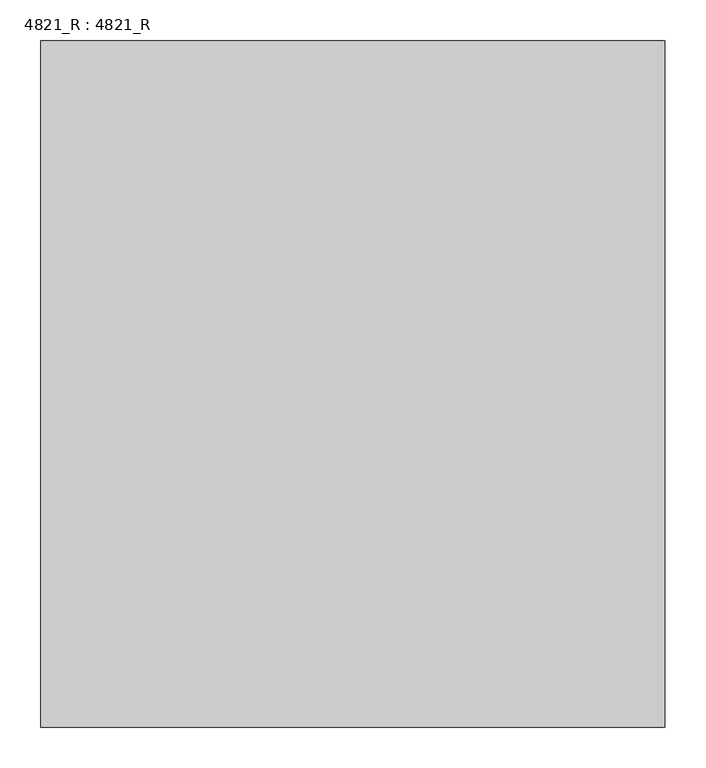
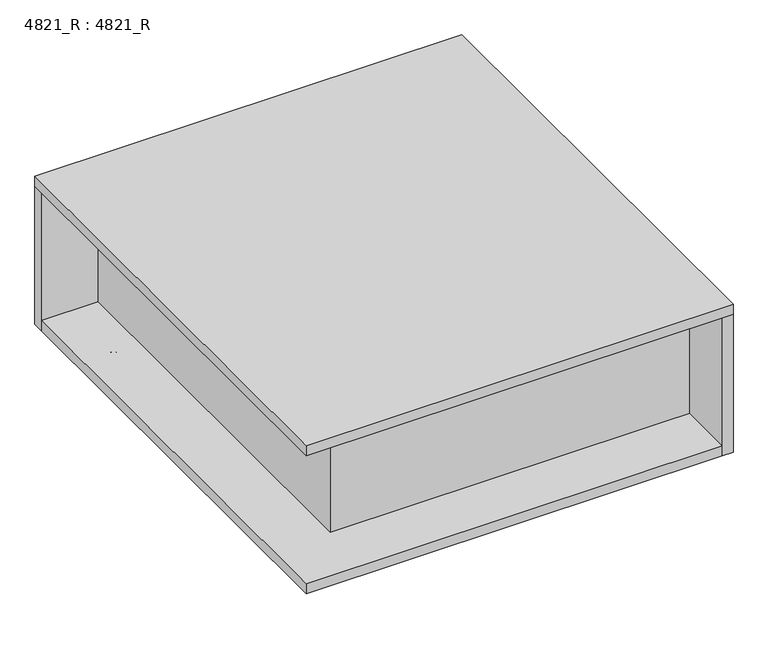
"""IFC4 building model written with IfcOpenShell, lengths in millimetres: furniture geometry, 4821_R : 4821_R."""

import ifcopenshell
import ifcopenshell.guid

model = None  # the IFC model being written
_history = None  # IfcOwnerHistory: only IFC2X3 demands one
_inside = {}  # id of a spatial element -> (the spatial element, [elements in it])
_under = {}  # id of a project, library or spatial element -> (it, [spatial elements below it])
_declared = {}  # id of a project -> (the project, [libraries it declares])
_typed = {}  # id of a type object -> (the type object, [elements of that type])
_made_of = {}  # id of a material, layer set ... -> (it, [elements and type objects made of it])


def new_model(schema):
    """Start an empty IFC model of exactly this schema.

    Asked for "IFC4X3", IfcOpenShell would pick the latest addendum, in which some entities
    have other attributes; the version numbers below select the first issue.
    IFC2X3 requires an IfcOwnerHistory on every rooted entity: one is made here for all.
    """
    global model, _history
    if schema == "IFC4X3":
        model = ifcopenshell.file(schema_version=(4, 3, 0, 0))
    else:
        model = ifcopenshell.file(schema=schema)
    _inside.clear()
    _under.clear()
    _declared.clear()
    _typed.clear()
    _made_of.clear()
    _history = None
    if model.schema == "IFC2X3":
        org = make("IfcOrganization", Name="unknown")
        user = make(
            "IfcPersonAndOrganization",
            ThePerson=make("IfcPerson", FamilyName="unknown"),
            TheOrganization=org,
        )
        app = make(
            "IfcApplication",
            ApplicationDeveloper=org,
            Version="unknown",
            ApplicationFullName="unknown",
            ApplicationIdentifier="unknown",
        )
        _history = make(
            "IfcOwnerHistory",
            OwningUser=user,
            OwningApplication=app,
            ChangeAction="ADDED",
            CreationDate=0,
        )
    return model


def make(cls, **values):
    """One entity of the class cls with the attributes given. An attribute that is None is left unset."""
    return model.create_entity(
        cls, **{name: value for name, value in values.items() if value is not None}
    )


def rooted(cls, **values):
    """An entity with a GlobalId (a new one), such as an element, a storey or a relation."""
    return make(cls, GlobalId=ifcopenshell.guid.new(), OwnerHistory=_history, **values)


def si_unit(unit_type, name, prefix=None):
    """IfcSIUnit, for example si_unit("LENGTHUNIT", "METRE", prefix="MILLI")."""
    return make("IfcSIUnit", UnitType=unit_type, Prefix=prefix, Name=name)


def assignment(units):
    """IfcUnitAssignment: the units of a project."""
    return None if units is None else make("IfcUnitAssignment", Units=units)


def point(xyz):
    """IfcCartesianPoint."""
    return None if xyz is None else make("IfcCartesianPoint", Coordinates=xyz)


def direction(xyz):
    """IfcDirection."""
    return None if xyz is None else make("IfcDirection", DirectionRatios=xyz)


def frame(location, z_axis=None, x_axis=None):
    """IfcAxis2Placement3D, a coordinate frame: its origin and axes. An axis left out is left unset."""
    return make(
        "IfcAxis2Placement3D",
        Location=point(location),
        Axis=direction(z_axis),
        RefDirection=direction(x_axis),
    )


def frame_2d(location, x_axis=None):
    """IfcAxis2Placement2D, a coordinate frame in the plane: its origin and x axis."""
    return make(
        "IfcAxis2Placement2D", Location=point(location), RefDirection=direction(x_axis)
    )


def origin():
    """The frame at (0, 0, 0) with its axes left unset."""
    return frame((0.0, 0.0, 0.0))


def place(relative_to, where):
    """IfcLocalPlacement: puts the frame where relative to a parent placement (None: the world)."""
    return make(
        "IfcLocalPlacement", PlacementRelTo=relative_to, RelativePlacement=where
    )


def context(
    kind, dimensions, precision=None, world=None, true_north=None, identifier=None
):
    """IfcGeometricRepresentationContext, for example the 3D "Model" context."""
    return make(
        "IfcGeometricRepresentationContext",
        ContextIdentifier=identifier,
        ContextType=kind,
        CoordinateSpaceDimension=dimensions,
        Precision=precision,
        WorldCoordinateSystem=world,
        TrueNorth=true_north,
    )


def project(units=None, contexts=None):
    """IfcProject with its units and contexts."""
    return rooted(
        "IfcProject",
        Name="project",
        RepresentationContexts=contexts,
        UnitsInContext=assignment(units),
    )


def spatial(cls, under=None, at=None, **own):
    """A site, building, storey or space (cls), placed at a placement, below another one or the project."""
    s = rooted(cls, ObjectPlacement=at, **own)
    if under is not None:
        _under.setdefault(under.id(), (under, []))[1].append(s)
    return s


def polyline(points):
    """IfcPolyline through the points."""
    return make("IfcPolyline", Points=[point(p) for p in points])


def circle_curve(where, radius):
    """IfcCircle in the frame where."""
    return make("IfcCircle", Position=where, Radius=radius)


def ellipse_curve(where, semi_axis1, semi_axis2):
    """IfcEllipse in the frame where."""
    return make(
        "IfcEllipse", Position=where, SemiAxis1=semi_axis1, SemiAxis2=semi_axis2
    )


def trimmed(basis, trim1, trim2, sense, master):
    """IfcTrimmedCurve: the piece of a basis curve between two trims."""
    return make(
        "IfcTrimmedCurve",
        BasisCurve=basis,
        Trim1=trim1,
        Trim2=trim2,
        SenseAgreement=sense,
        MasterRepresentation=master,
    )


def segment(curve, same_sense, transition):
    """IfcCompositeCurveSegment."""
    return make(
        "IfcCompositeCurveSegment",
        Transition=transition,
        SameSense=same_sense,
        ParentCurve=curve,
    )


def composite_curve(segments, self_intersect=None):
    """IfcCompositeCurve: segments joined end to end."""
    return make("IfcCompositeCurve", Segments=segments, SelfIntersect=self_intersect)


def outline(outer, holes=None, kind="AREA"):
    """IfcArbitraryClosedProfileDef: a profile drawn as a closed curve; with holes, ...WithVoids."""
    if holes is None:
        return make("IfcArbitraryClosedProfileDef", ProfileType=kind, OuterCurve=outer)
    return make(
        "IfcArbitraryProfileDefWithVoids",
        ProfileType=kind,
        OuterCurve=outer,
        InnerCurves=holes,
    )


def extrude(swept, where, along, depth):
    """IfcExtrudedAreaSolid: the profile swept, set in the frame where, extruded along a direction by depth."""
    return make(
        "IfcExtrudedAreaSolid",
        SweptArea=swept,
        Position=where,
        ExtrudedDirection=direction(along),
        Depth=depth,
    )


def shape(context_of_items, identifier, shape_type, items):
    """IfcShapeRepresentation: the items that make up one representation, for example the "Body"."""
    return make(
        "IfcShapeRepresentation",
        ContextOfItems=context_of_items,
        RepresentationIdentifier=identifier,
        RepresentationType=shape_type,
        Items=items,
    )


def source(mapping_origin, context_of_items, identifier, shape_type, items):
    """IfcRepresentationMap: a shape defined once, which mapped items show again and again."""
    return make(
        "IfcRepresentationMap",
        MappingOrigin=mapping_origin,
        MappedRepresentation=shape(context_of_items, identifier, shape_type, items),
    )


def transform(
    local_origin,
    x_axis=None,
    y_axis=None,
    z_axis=None,
    scale=None,
    scale2=None,
    scale3=None,
    uniform=True,
):
    """IfcCartesianTransformationOperator3D, or its non-uniform kind. x_axis, y_axis, z_axis: its Axis1, 2, 3."""
    if uniform:
        return make(
            "IfcCartesianTransformationOperator3D",
            Axis1=direction(x_axis),
            Axis2=direction(y_axis),
            LocalOrigin=point(local_origin),
            Scale=scale,
            Axis3=direction(z_axis),
        )
    return make(
        "IfcCartesianTransformationOperator3DnonUniform",
        Axis1=direction(x_axis),
        Axis2=direction(y_axis),
        LocalOrigin=point(local_origin),
        Scale=scale,
        Axis3=direction(z_axis),
        Scale2=scale2,
        Scale3=scale3,
    )


def mapped(mapping_source, mapping_target):
    """IfcMappedItem: shows the shape of a source again, moved by a transform."""
    return make(
        "IfcMappedItem", MappingSource=mapping_source, MappingTarget=mapping_target
    )


def made_of(thing, what):
    """Note that an element or type object is made of a material, layer set ...; save() writes the relation."""
    if what is not None:
        _made_of.setdefault(what.id(), (what, []))[1].append(thing)
    return thing


def element(
    cls,
    number,
    at=None,
    inside=None,
    cuts=None,
    type_object=None,
    material=None,
    context=None,
    identifier="Body",
    shape_type=None,
    held_by="IfcProductDefinitionShape",
    body=None,
    shapes=None,
    **own,
):
    """One element of the class cls, such as IfcWall. Its Tag is "e" and its number.

    at: its placement. inside: the storey or other place that contains it. cuts: it is an
    opening in that element (IfcRelVoidsElement). A single representation is given by context,
    identifier, shape_type and body (its items); several are given by shapes. held_by: the class
    of the entity that holds the representations. save() writes the other relations.
    """
    e = rooted(cls, Tag="e%d" % number, ObjectPlacement=at, **own)
    if body is not None:
        shapes = [shape(context, identifier, shape_type, body)]
    if shapes is not None:
        e.Representation = make(held_by, Representations=shapes)
    if inside is not None:
        _inside.setdefault(inside.id(), (inside, []))[1].append(e)
    if cuts is not None:
        rooted(
            "IfcRelVoidsElement", RelatingBuildingElement=cuts, RelatedOpeningElement=e
        )
    if type_object is not None:
        _typed.setdefault(type_object.id(), (type_object, []))[1].append(e)
    return made_of(e, material)


def aggregate(whole, parts):
    """IfcRelAggregates: a whole, such as a stair, and the parts it consists of."""
    return rooted("IfcRelAggregates", RelatingObject=whole, RelatedObjects=parts)


def save(model, path):
    """Write the relations noted so far, then the file.

    IfcRelAggregates (storeys below a building ...), IfcRelContainedInSpatialStructure (elements
    in a storey), IfcRelDefinesByType, IfcRelAssociatesMaterial and IfcRelDeclares: one each for
    every whole, place, type object, material and project.
    """
    for whole, parts in _under.values():
        aggregate(whole, parts)
    for where, things in _inside.values():
        rooted(
            "IfcRelContainedInSpatialStructure",
            RelatedElements=things,
            RelatingStructure=where,
        )
    for kind, things in _typed.values():
        rooted("IfcRelDefinesByType", RelatedObjects=things, RelatingType=kind)
    for what, things in _made_of.values():
        rooted("IfcRelAssociatesMaterial", RelatedObjects=things, RelatingMaterial=what)
    for by, libraries in _declared.values():
        rooted("IfcRelDeclares", RelatingContext=by, RelatedDefinitions=libraries)
    model.write(path)


def plane_surface(at):
    """IfcPlane: the flat surface through the origin of the frame at, square to its z axis."""
    return make("IfcPlane", Position=at)


def cylinder_surface(at, radius):
    """IfcCylindricalSurface: all points at the distance radius from the z axis of the frame at."""
    return make("IfcCylindricalSurface", Position=at, Radius=radius)


def revolved_surface(curve, axis_point, axis_direction):
    """IfcSurfaceOfRevolution: the curve turned about the line through axis_point along axis_direction."""
    return make(
        "IfcSurfaceOfRevolution",
        SweptCurve=make("IfcArbitraryOpenProfileDef", ProfileType="CURVE", Curve=curve),
        AxisPosition=make("IfcAxis1Placement", Location=point(axis_point), Axis=direction(axis_direction)),
    )


def advanced_brep(points, edges, surfaces, faces):
    """IfcAdvancedBrep: a solid bounded by faces that lie on surfaces and meet in shared edges.

    An edge is (start, end): straight between two places in points (the first is 0);
    or (start, end, curve); or (start, end, curve, False) where it runs against its curve.
    A face is (place in surfaces, loops), or (place, loops, False) where it looks against
    its surface's normal. A loop lists edges by number (the first is 1), with a minus sign
    where the edge is run from its end to its start. The first loop is the outer one.
    """
    corners = [point(p) for p in points]
    vertices = [make("IfcVertexPoint", VertexGeometry=c) for c in corners]
    made = []
    for start, end, *more in edges:
        made.append(
            make(
                "IfcEdgeCurve",
                EdgeStart=vertices[start],
                EdgeEnd=vertices[end],
                EdgeGeometry=more[0] if more else make("IfcPolyline", Points=[corners[start], corners[end]]),
                SameSense=more[1] if len(more) > 1 else True,
            )
        )
    hull = []
    for where, loops, *sense in faces:
        bounds = []
        for j, loop in enumerate(loops):
            ring = [make("IfcOrientedEdge", EdgeElement=made[abs(k) - 1], Orientation=k > 0) for k in loop]
            bounds.append(
                make(
                    "IfcFaceOuterBound" if j == 0 else "IfcFaceBound",
                    Bound=make("IfcEdgeLoop", EdgeList=ring),
                    Orientation=True,
                )
            )
        hull.append(make("IfcAdvancedFace", Bounds=bounds, FaceSurface=surfaces[where], SameSense=sense[0] if sense else True))
    return make("IfcAdvancedBrep", Outer=make("IfcClosedShell", CfsFaces=hull))


def furniture_4821_r_4821_r_f8ec19d6(model_context):
    return source(origin(), model_context, "Body", "SolidModel", [
        advanced_brep(
        [(-625.475, -38.1, 41.5925), (-720.725, -38.1, 41.5925), (-723.9, -41.275, 41.5925), (-723.9, -136.525, 41.5925), (-720.725, -139.7, 41.5925), (-625.475, -139.7, 41.5925), (-622.3, -136.525, 41.5925), (-622.3, -41.275, 41.5925), (-722.63, -41.275, 11.1125), (-720.725, -39.37, 11.1125), (-625.475, -39.37, 11.1125), (-623.57, -41.275, 11.1125), (-623.57, -136.525, 11.1125), (-625.475, -138.43, 11.1125), (-720.725, -138.43, 11.1125), (-722.63, -136.525, 11.1125), (-625.475, -38.1, 11.1125), (-720.725, -38.1, 11.1125), (-723.9, -41.275, 11.1125), (-723.9, -136.525, 11.1125), (-720.725, -139.7, 11.1125), (-625.475, -139.7, 11.1125), (-622.3, -136.525, 11.1125), (-622.3, -41.275, 11.1125), (-720.725, -39.37, 9.8425), (-722.63, -41.275, 9.8425), (-625.475, -39.37, 9.8425), (-623.57, -41.275, 9.8425), (-623.57, -136.525, 9.8425), (-625.475, -138.43, 9.8425), (-720.725, -138.43, 9.8425), (-722.63, -136.525, 9.8425)],
        [
            (0, 1),
            (1, 2, circle_curve(frame((-720.725, -41.275, 41.5925), z_axis=(0.0, 0.0, 1.0), x_axis=(1.0, 0.0, 0.0)), 3.175)),
            (2, 3),
            (3, 4, circle_curve(frame((-720.725, -136.525, 41.5925), z_axis=(0.0, 0.0, 1.0), x_axis=(1.0, 0.0, 0.0)), 3.175)),
            (4, 5),
            (5, 6, circle_curve(frame((-625.475, -136.525, 41.5925), z_axis=(0.0, 0.0, 1.0), x_axis=(1.0, 0.0, 0.0)), 3.175)),
            (6, 7),
            (7, 0, circle_curve(frame((-625.475, -41.275, 41.5925), z_axis=(0.0, 0.0, 1.0), x_axis=(1.0, 0.0, 0.0)), 3.175)),
            (8, 9, circle_curve(frame((-720.725, -41.275, 11.1125), z_axis=(0.0, 0.0, -1.0), x_axis=(-1.0, 0.0, 0.0)), 1.905)),
            (9, 10),
            (10, 11, circle_curve(frame((-625.475, -41.275, 11.1125), z_axis=(0.0, 0.0, -1.0), x_axis=(0.0, 1.0, 0.0)), 1.905)),
            (11, 12),
            (12, 13, circle_curve(frame((-625.475, -136.525, 11.1125), z_axis=(0.0, 0.0, -1.0), x_axis=(1.0, 0.0, 0.0)), 1.905)),
            (13, 14),
            (14, 15, circle_curve(frame((-720.725, -136.525, 11.1125), z_axis=(0.0, 0.0, -1.0), x_axis=(0.0, -1.0, 0.0)), 1.905)),
            (15, 8),
            (0, 16),
            (16, 17),
            (17, 1),
            (17, 18, circle_curve(frame((-720.725, -41.275, 11.1125), z_axis=(0.0, 0.0, 1.0), x_axis=(1.0, 0.0, 0.0)), 3.175)),
            (18, 2),
            (18, 19),
            (19, 3),
            (19, 20, circle_curve(frame((-720.725, -136.525, 11.1125), z_axis=(0.0, 0.0, 1.0), x_axis=(1.0, 0.0, 0.0)), 3.175)),
            (20, 4),
            (20, 21),
            (21, 5),
            (21, 22, circle_curve(frame((-625.475, -136.525, 11.1125), z_axis=(0.0, 0.0, 1.0), x_axis=(1.0, 0.0, 0.0)), 3.175)),
            (22, 6),
            (22, 23),
            (23, 7),
            (23, 16, circle_curve(frame((-625.475, -41.275, 11.1125), z_axis=(0.0, 0.0, 1.0), x_axis=(1.0, 0.0, 0.0)), 3.175)),
            (24, 25, circle_curve(frame((-720.725, -41.275, 9.8425), z_axis=(0.0, 0.0, 1.0), x_axis=(-1.0, 0.0, 0.0)), 1.905)),
            (25, 18, circle_curve(frame((-722.63, -41.275, 11.1125), z_axis=(0.0, 1.0, 0.0), x_axis=(1.0, 0.0, 0.0)), 1.27)),
            (17, 24, circle_curve(frame((-720.725, -39.37, 11.1125), z_axis=(-1.0, 0.0, 0.0), x_axis=(0.0, -1.0, 0.0)), 1.27)),
            (16, 26, circle_curve(frame((-625.475, -39.37, 11.1125), z_axis=(-1.0, 0.0, 0.0), x_axis=(0.0, -1.0, 0.0)), 1.27)),
            (26, 24),
            (23, 27, circle_curve(frame((-623.57, -41.275, 11.1125), z_axis=(0.0, 1.0, 0.0), x_axis=(-1.0, 0.0, 0.0)), 1.27)),
            (27, 26, circle_curve(frame((-625.475, -41.275, 9.8425), z_axis=(0.0, 0.0, 1.0), x_axis=(0.0, 1.0, 0.0)), 1.905)),
            (22, 28, circle_curve(frame((-623.57, -136.525, 11.1125), z_axis=(0.0, 1.0, 0.0), x_axis=(-1.0, 0.0, 0.0)), 1.27)),
            (28, 27),
            (21, 29, circle_curve(frame((-625.475, -138.43, 11.1125), z_axis=(1.0, 0.0, 0.0), x_axis=(0.0, 1.0, 0.0)), 1.27)),
            (29, 28, circle_curve(frame((-625.475, -136.525, 9.8425), z_axis=(0.0, 0.0, 1.0), x_axis=(1.0, 0.0, 0.0)), 1.905)),
            (20, 30, circle_curve(frame((-720.725, -138.43, 11.1125), z_axis=(1.0, 0.0, 0.0), x_axis=(0.0, 1.0, 0.0)), 1.27)),
            (30, 29),
            (19, 31, circle_curve(frame((-722.63, -136.525, 11.1125), z_axis=(0.0, -1.0, 0.0), x_axis=(1.0, 0.0, 0.0)), 1.27)),
            (31, 30, circle_curve(frame((-720.725, -136.525, 9.8425), z_axis=(0.0, 0.0, 1.0), x_axis=(0.0, -1.0, 0.0)), 1.905)),
            (25, 31),
            (24, 9),
            (8, 25),
            (26, 10),
            (27, 11),
            (28, 12),
            (29, 13),
            (30, 14),
            (31, 15),
        ],
        [
            plane_surface(frame((-720.725, -38.1, 41.5925), z_axis=(0.0, 0.0, 1.0), x_axis=(-1.0, 0.0, 0.0))),
            plane_surface(frame((-720.725, -38.1, 11.1125), z_axis=(0.0, 0.0, -1.0), x_axis=(1.0, 0.0, 0.0))),
            plane_surface(frame((-625.475, -38.1, 41.5925), z_axis=(0.0, 1.0, 0.0), x_axis=(0.0, 0.0, -1.0))),
            cylinder_surface(frame((-720.725, -41.275, 11.1125), z_axis=(0.0, 0.0, 1.0), x_axis=(1.0, 0.0, 0.0)), 3.175),
            plane_surface(frame((-723.9, -41.275, 41.5925), z_axis=(-1.0, 0.0, 0.0), x_axis=(0.0, 0.0, -1.0))),
            cylinder_surface(frame((-720.725, -136.525, 11.1125), z_axis=(0.0, 0.0, 1.0), x_axis=(1.0, 0.0, 0.0)), 3.175),
            plane_surface(frame((-720.725, -139.7, 41.5925), z_axis=(0.0, -1.0, 0.0), x_axis=(0.0, 0.0, -1.0))),
            cylinder_surface(frame((-625.475, -136.525, 11.1125), z_axis=(0.0, 0.0, 1.0), x_axis=(1.0, 0.0, 0.0)), 3.175),
            plane_surface(frame((-622.3, -136.525, 41.5925), z_axis=(1.0, 0.0, 0.0), x_axis=(0.0, 0.0, -1.0))),
            cylinder_surface(frame((-625.475, -41.275, 11.1125), z_axis=(0.0, 0.0, 1.0), x_axis=(1.0, 0.0, 0.0)), 3.175),
            revolved_surface(trimmed(ellipse_curve(frame((-722.63, -41.275, 11.1125), z_axis=(0.0, -1.0, 0.0), x_axis=(1.0, 0.0, 0.0)), 1.27, 1.27), [point((-723.9, -41.275, 11.1125))], [point((-722.63, -41.275, 9.8425))], True, "CARTESIAN"), (-720.725, -41.275, 11.1125), (0.0, 0.0, -1.0)),
            cylinder_surface(frame((-720.725, -39.37, 11.1125), z_axis=(-1.0, 0.0, 0.0), x_axis=(0.0, -1.0, 0.0)), 1.27),
            revolved_surface(trimmed(ellipse_curve(frame((-625.475, -39.37, 11.1125), z_axis=(-1.0, 0.0, 0.0), x_axis=(0.0, -1.0, 0.0)), 1.27, 1.27), [point((-625.475, -38.1, 11.1125))], [point((-625.475, -39.37, 9.8425))], True, "CARTESIAN"), (-625.475, -41.275, 11.1125), (0.0, 0.0, -1.0)),
            cylinder_surface(frame((-623.57, -41.275, 11.1125), z_axis=(0.0, 1.0, 0.0), x_axis=(-1.0, 0.0, 0.0)), 1.27),
            revolved_surface(trimmed(ellipse_curve(frame((-623.57, -136.525, 11.1125), z_axis=(0.0, 1.0, 0.0), x_axis=(-1.0, 0.0, 0.0)), 1.27, 1.27), [point((-622.3, -136.525, 11.1125))], [point((-623.57, -136.525, 9.8425))], True, "CARTESIAN"), (-625.475, -136.525, 11.1125), (0.0, 0.0, -1.0)),
            cylinder_surface(frame((-625.475, -138.43, 11.1125), z_axis=(1.0, 0.0, 0.0), x_axis=(0.0, 1.0, 0.0)), 1.27),
            revolved_surface(trimmed(ellipse_curve(frame((-720.725, -138.43, 11.1125), z_axis=(1.0, 0.0, 0.0), x_axis=(0.0, 1.0, 0.0)), 1.27, 1.27), [point((-720.725, -139.7, 11.1125))], [point((-720.725, -138.43, 9.8425))], True, "CARTESIAN"), (-720.725, -136.525, 11.1125), (0.0, 0.0, -1.0)),
            cylinder_surface(frame((-722.63, -136.525, 11.1125), z_axis=(0.0, -1.0, 0.0), x_axis=(1.0, 0.0, 0.0)), 1.27),
            revolved_surface(polyline([(-722.63, -41.275, 9.8425), (-722.63, -41.275, 11.1125)]), (-720.725, -41.275, 11.1125), (0.0, 0.0, -1.0)),
            plane_surface(frame((-720.725, -39.37, 9.8425), z_axis=(0.0, -1.0, 0.0), x_axis=(1.0, 0.0, 0.0))),
            revolved_surface(polyline([(-625.475, -39.37, 9.8425), (-625.475, -39.37, 11.1125)]), (-625.475, -41.275, 11.1125), (0.0, 0.0, -1.0)),
            plane_surface(frame((-623.57, -41.275, 9.8425), z_axis=(-1.0, 0.0, 0.0), x_axis=(0.0, -1.0, 0.0))),
            revolved_surface(polyline([(-623.57, -136.525, 9.8425), (-623.57, -136.525, 11.1125)]), (-625.475, -136.525, 11.1125), (0.0, 0.0, -1.0)),
            plane_surface(frame((-625.475, -138.43, 9.8425), z_axis=(0.0, 1.0, 0.0), x_axis=(-1.0, 0.0, 0.0))),
            revolved_surface(polyline([(-720.725, -138.43, 9.8425), (-720.725, -138.43, 11.1125)]), (-720.725, -136.525, 11.1125), (0.0, 0.0, -1.0)),
            plane_surface(frame((-722.63, -136.525, 9.8425), z_axis=(1.0, 0.0, 0.0), x_axis=(0.0, 1.0, 0.0))),
        ],
        [
            (0, [[1, 2, 3, 4, 5, 6, 7, 8]]),
            (1, [[9, 10, 11, 12, 13, 14, 15, 16]]),
            (2, [[-1, 17, 18, 19]]),
            (3, [[-2, -19, 20, 21]]),
            (4, [[-3, -21, 22, 23]]),
            (5, [[-4, -23, 24, 25]]),
            (6, [[-5, -25, 26, 27]]),
            (7, [[-6, -27, 28, 29]]),
            (8, [[-7, -29, 30, 31]]),
            (9, [[-8, -31, 32, -17]]),
            (10, [[33, 34, -20, 35]]),
            (11, [[-35, -18, 36, 37]]),
            (12, [[-36, -32, 38, 39]]),
            (13, [[-38, -30, 40, 41]]),
            (14, [[-40, -28, 42, 43]]),
            (15, [[-42, -26, 44, 45]]),
            (16, [[-44, -24, 46, 47]]),
            (17, [[-34, 48, -46, -22]]),
            (18, [[-33, 49, -9, 50]]),
            (19, [[-37, 51, -10, -49]]),
            (20, [[-39, 52, -11, -51]]),
            (21, [[-41, 53, -12, -52]]),
            (22, [[-43, 54, -13, -53]]),
            (23, [[-45, 55, -14, -54]]),
            (24, [[-47, 56, -15, -55]]),
            (25, [[-48, -50, -16, -56]]),
        ],
    ),
        extrude(outline(composite_curve([segment(trimmed(circle_curve(frame_2d((-720.725, -136.525)), 1.905), [point((-720.725, -138.43))], [point((-722.63, -136.525))], False, "CARTESIAN"), True, "CONTINUOUS"), segment(polyline([(-722.63, -136.525), (-722.63, -41.275)]), True, "CONTINUOUS"), segment(trimmed(circle_curve(frame_2d((-720.725, -41.275)), 1.905), [point((-722.63, -41.275))], [point((-720.725, -39.37))], False, "CARTESIAN"), True, "CONTINUOUS"), segment(polyline([(-720.725, -39.37), (-625.475, -39.37)]), True, "CONTINUOUS"), segment(trimmed(circle_curve(frame_2d((-625.475, -41.275)), 1.905), [point((-625.475, -39.37))], [point((-623.57, -41.275))], False, "CARTESIAN"), True, "CONTINUOUS"), segment(polyline([(-623.57, -41.275), (-623.57, -136.525)]), True, "CONTINUOUS"), segment(trimmed(circle_curve(frame_2d((-625.475, -136.525)), 1.905), [point((-623.57, -136.525))], [point((-625.475, -138.43))], False, "CARTESIAN"), True, "CONTINUOUS"), segment(polyline([(-625.475, -138.43), (-720.725, -138.43)]), True, "CONTINUOUS")], self_intersect=False)), frame((0.0, 0.0, 9.8425), z_axis=(0.0, 0.0, 1.0), x_axis=(1.0, 0.0, 0.0)), (0.0, 0.0, 1.0), 1.27),
        advanced_brep(
        [(-683.2521334, -88.9, 0.0), (-662.9478666, -88.9, 0.0), (-673.1, -88.9, 0.0), (-683.5775, -88.9, 5.08), (-662.6225, -88.9, 5.08), (-683.5775, -88.9, 9.0481974), (-662.6225, -88.9, 9.0481974), (-682.7831974, -88.9, 9.8425), (-663.4168026, -88.9, 9.8425), (-673.1, -88.9, 9.8425)],
        [
            (0, 1, circle_curve(frame((-673.1, -88.9, 0.0), z_axis=(0.0, 0.0, -1.0), x_axis=(1.0, 0.0, 0.0)), 10.1521334)),
            (1, 2),
            (2, 0),
            (1, 0, circle_curve(frame((-673.1, -88.9, 0.0), z_axis=(0.0, 0.0, -1.0), x_axis=(1.0, 0.0, 0.0)), 10.1521334)),
            (3, 4, circle_curve(frame((-673.1, -88.9, 5.08), z_axis=(0.0, 0.0, -1.0), x_axis=(1.0, 0.0, 0.0)), 10.4775)),
            (4, 1, circle_curve(frame((-662.9478666, -88.9, 2.5504196), z_axis=(0.0, 1.0, 0.0), x_axis=(1.0, 0.0, 0.0)), 2.5504196)),
            (0, 3, circle_curve(frame((-683.2521334, -88.9, 2.5504196), z_axis=(0.0, 1.0, 0.0), x_axis=(-1.0, 0.0, 0.0)), 2.5504196)),
            (4, 3, circle_curve(frame((-673.1, -88.9, 5.08), z_axis=(0.0, 0.0, -1.0), x_axis=(1.0, 0.0, 0.0)), 10.4775)),
            (5, 6, circle_curve(frame((-673.1, -88.9, 9.0481974), z_axis=(0.0, 0.0, -1.0), x_axis=(1.0, 0.0, 0.0)), 10.4775)),
            (6, 4),
            (3, 5),
            (6, 5, circle_curve(frame((-673.1, -88.9, 9.0481974), z_axis=(0.0, 0.0, -1.0), x_axis=(1.0, 0.0, 0.0)), 10.4775)),
            (7, 8, circle_curve(frame((-673.1, -88.9, 9.8425), z_axis=(0.0, 0.0, -1.0), x_axis=(1.0, 0.0, 0.0)), 9.6831974)),
            (8, 6, circle_curve(frame((-663.4168026, -88.9, 9.0481974), z_axis=(0.0, 1.0, 0.0), x_axis=(1.0, 0.0, 0.0)), 0.7943026)),
            (5, 7, circle_curve(frame((-682.7831974, -88.9, 9.0481974), z_axis=(0.0, 1.0, 0.0), x_axis=(-1.0, 0.0, 0.0)), 0.7943026)),
            (8, 7, circle_curve(frame((-673.1, -88.9, 9.8425), z_axis=(0.0, 0.0, -1.0), x_axis=(1.0, 0.0, 0.0)), 9.6831974)),
            (9, 8),
            (7, 9),
        ],
        [
            plane_surface(frame((-673.1, -88.9, 0.0), z_axis=(0.0, 0.0, -1.0), x_axis=(1.0, 0.0, 0.0))),
            revolved_surface(trimmed(ellipse_curve(frame((-662.9478666, -88.9, 2.5504196), z_axis=(0.0, -1.0, 0.0), x_axis=(1.0, 0.0, 0.0)), 2.5504196, 2.5504196), [point((-662.9478666, -88.9, 0.0))], [point((-662.6225, -88.9, 5.08))], True, "CARTESIAN"), (-673.1, -88.9, 9.8425), (0.0, 0.0, 1.0)),
            cylinder_surface(frame((-673.1, -88.9, 9.8425), z_axis=(0.0, 0.0, 1.0), x_axis=(1.0, 0.0, 0.0)), 10.4775),
            revolved_surface(trimmed(ellipse_curve(frame((-663.4168026, -88.9, 9.0481974), z_axis=(0.0, -1.0, 0.0), x_axis=(1.0, 0.0, 0.0)), 0.7943026, 0.7943026), [point((-662.6225, -88.9, 9.0481974))], [point((-663.4168026, -88.9, 9.8425))], True, "CARTESIAN"), (-673.1, -88.9, 9.8425), (0.0, 0.0, 1.0)),
            plane_surface(frame((-673.1, -88.9, 9.8425), z_axis=(0.0, 0.0, 1.0), x_axis=(1.0, 0.0, 0.0))),
        ],
        [
            (0, [[1, 2, 3]]),
            (0, [[4, -3, -2]]),
            (1, [[5, 6, -1, 7]]),
            (1, [[8, -7, -4, -6]]),
            (2, [[9, 10, -5, 11]]),
            (2, [[12, -11, -8, -10]]),
            (3, [[13, 14, -9, 15]]),
            (3, [[16, -15, -12, -14]]),
            (4, [[17, -13, 18]]),
            (4, [[-18, -16, -17]]),
        ],
    ),
        extrude(outline(polyline([(-19.05, -736.6), (-660.4, -736.6), (-660.4, -19.05), (-19.05, -19.05), (-19.05, -736.6)])), frame((0.0, 0.0, 60.6425), z_axis=(0.0, 0.0, 1.0), x_axis=(1.0, 0.0, 0.0)), (0.0, 0.0, 1.0), 241.3),
        extrude(outline(polyline([(-762.0, 0.0), (0.0, 0.0), (0.0, -838.2), (-762.0, -838.2), (-762.0, 0.0)])), frame((0.0, 0.0, 301.9425), z_axis=(0.0, 0.0, 1.0), x_axis=(1.0, 0.0, 0.0)), (0.0, 0.0, 1.0), 19.05),
        extrude(outline(polyline([(0.0, 0.0), (0.0, -19.05), (-762.0, -19.05), (-762.0, 0.0), (0.0, 0.0)])), frame((0.0, 0.0, 41.5925), z_axis=(0.0, 0.0, 1.0), x_axis=(1.0, 0.0, 0.0)), (0.0, 0.0, 1.0), 260.35),
        extrude(outline(polyline([(0.0, -838.2), (-19.05, -838.2), (-19.05, -19.05), (0.0, -19.05), (0.0, -838.2)])), frame((0.0, 0.0, 41.5925), z_axis=(0.0, 0.0, 1.0), x_axis=(1.0, 0.0, 0.0)), (0.0, 0.0, 1.0), 260.35),
        extrude(outline(polyline([(-19.05, -19.05), (-19.05, -838.2), (-762.0, -838.2), (-762.0, -19.05), (-19.05, -19.05)])), frame((0.0, 0.0, 41.5925), z_axis=(0.0, 0.0, 1.0), x_axis=(1.0, 0.0, 0.0)), (0.0, 0.0, 1.0), 19.05),
    ])


if __name__ == "__main__":
    model = new_model("IFC4")
    model_context = context("Model", 3, world=origin())
    ifc_project = project(units=[si_unit("LENGTHUNIT", "METRE", prefix="MILLI")], contexts=[model_context])
    site = spatial("IfcSite", under=ifc_project)
    building = spatial("IfcBuilding", under=site)
    placement = place(None, origin())
    furniture_4821_r_4821_r_shape = furniture_4821_r_4821_r_f8ec19d6(model_context)
    element("IfcFurniture", 1, ObjectType="4821_R : 4821_R", at=placement, inside=building, context=model_context, shape_type="MappedRepresentation", body=[
        mapped(furniture_4821_r_4821_r_shape, transform((0.0, 0.0, 0.0), x_axis=(1.0, 0.0, 0.0), y_axis=(0.0, 1.0, 0.0), z_axis=(0.0, 0.0, 1.0))),
    ])
    save(model, "model.ifc")
